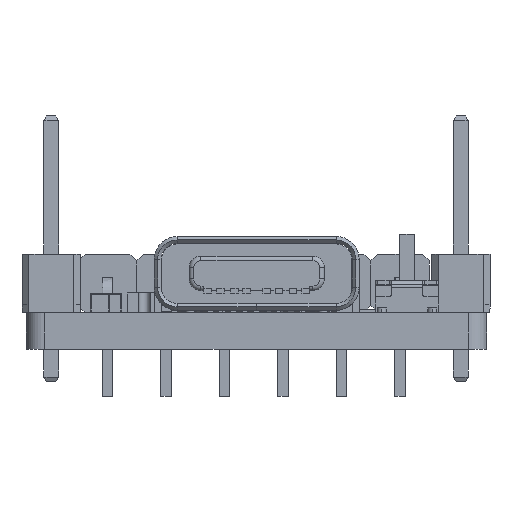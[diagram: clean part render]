
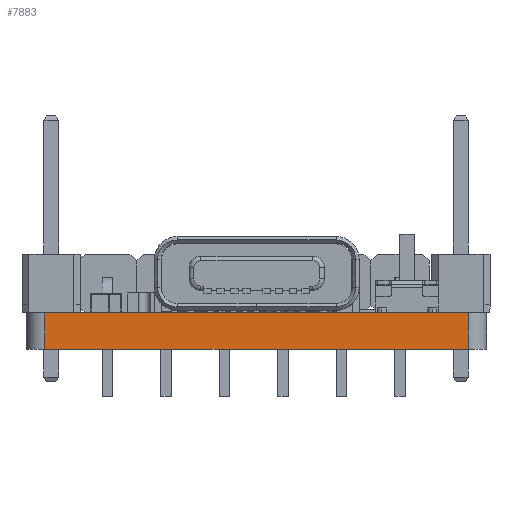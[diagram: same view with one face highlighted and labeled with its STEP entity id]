
A CAD part, left-side view. The second image highlights one B-rep face of the part: STEP entity #7883.
In plain terms, the highlighted planar face has unit normal (-1, 0, 0).
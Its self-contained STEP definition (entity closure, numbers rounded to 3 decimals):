
#7883=ADVANCED_FACE('',(#10780),#9619,.T.);
#9619=PLANE('',#36023);
#10780=FACE_OUTER_BOUND('',#12436,.T.);
#12436=EDGE_LOOP('',(#14324,#14325,#14326,#14327));
#14324=ORIENTED_EDGE('',*,*,#25544,.T.);
#14325=ORIENTED_EDGE('',*,*,#25545,.T.);
#14326=ORIENTED_EDGE('',*,*,#25546,.F.);
#14327=ORIENTED_EDGE('',*,*,#25547,.F.);
#22776=VERTEX_POINT('',#45900);
#22777=VERTEX_POINT('',#45901);
#22778=VERTEX_POINT('',#45903);
#22779=VERTEX_POINT('',#45905);
#25544=EDGE_CURVE('',#22776,#22777,#29770,.T.);
#25545=EDGE_CURVE('',#22777,#22778,#29771,.T.);
#25546=EDGE_CURVE('',#22779,#22778,#29772,.T.);
#25547=EDGE_CURVE('',#22776,#22779,#29773,.T.);
#29770=LINE('',#45899,#32896);
#29771=LINE('',#45902,#32897);
#29772=LINE('',#45904,#32898);
#29773=LINE('',#45906,#32899);
#32896=VECTOR('',#38274,1.);
#32897=VECTOR('',#38275,1.);
#32898=VECTOR('',#38276,1.);
#32899=VECTOR('',#38277,1.);
#36023=AXIS2_PLACEMENT_3D('',#45907,#38278,#38279);
#38274=DIRECTION('',(0.,0.,1.));
#38275=DIRECTION('',(0.,1.,0.));
#38276=DIRECTION('',(0.,0.,1.));
#38277=DIRECTION('',(0.,1.,0.));
#38278=DIRECTION('',(-1.,0.,0.));
#38279=DIRECTION('',(0.,-1.,0.));
#45899=CARTESIAN_POINT('',(0.,0.959,0.));
#45900=CARTESIAN_POINT('',(0.,0.959,-1.189));
#45901=CARTESIAN_POINT('',(0.,0.959,0.411));
#45902=CARTESIAN_POINT('',(0.,0.8,0.411));
#45903=CARTESIAN_POINT('',(0.,19.361,0.411));
#45904=CARTESIAN_POINT('',(0.,19.361,0.));
#45905=CARTESIAN_POINT('',(0.,19.361,-1.189));
#45906=CARTESIAN_POINT('',(0.,19.521,-1.189));
#45907=CARTESIAN_POINT('',(0.,0.8,0.));
